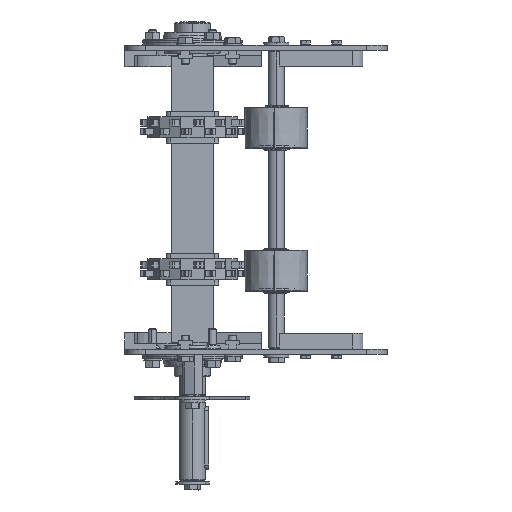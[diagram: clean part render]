
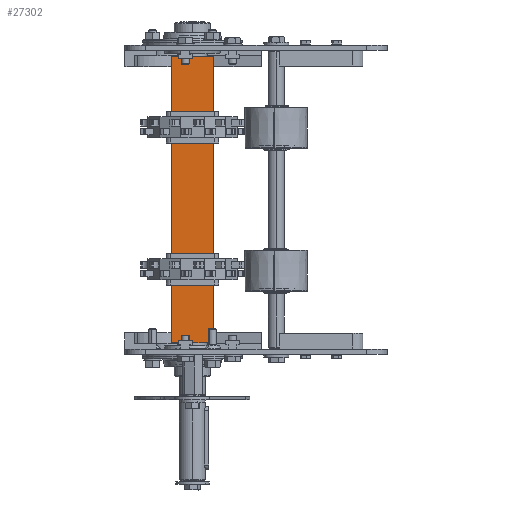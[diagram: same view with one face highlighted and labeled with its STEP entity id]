
A CAD part, left-side view. The second image highlights one B-rep face of the part: STEP entity #27302.
In plain terms, the highlighted planar face has unit normal (-1, 0, 0) as drawn and (1, 0, 0) by its records, which use the part's own axes.
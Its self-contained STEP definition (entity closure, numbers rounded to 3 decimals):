
#99 = CARTESIAN_POINT ( 'NONE',  ( 20., 20., -136.5 ) ) ;
#2536 = EDGE_CURVE ( 'NONE', #16077, #5804, #23051, .T. ) ;
#2972 = DIRECTION ( 'NONE',  ( 0., 1., 0. ) ) ;
#5804 = VERTEX_POINT ( 'NONE', #35596 ) ;
#6643 = PLANE ( 'NONE',  #30958 ) ;
#6761 = DIRECTION ( 'NONE',  ( -1., 0., 0. ) ) ;
#6986 = VECTOR ( 'NONE', #2972, 1000. ) ;
#8596 = DIRECTION ( 'NONE',  ( 0., 0., -1. ) ) ;
#10255 = ORIENTED_EDGE ( 'NONE', *, *, #2536, .F. ) ;
#12689 = ORIENTED_EDGE ( 'NONE', *, *, #14145, .F. ) ;
#13532 = DIRECTION ( 'NONE',  ( 0., 1., 0. ) ) ;
#14145 = EDGE_CURVE ( 'NONE', #30918, #16077, #19529, .T. ) ;
#14515 = LINE ( 'NONE', #28315, #21961 ) ;
#14631 = ORIENTED_EDGE ( 'NONE', *, *, #18827, .T. ) ;
#14746 = VECTOR ( 'NONE', #16963, 1000. ) ;
#16077 = VERTEX_POINT ( 'NONE', #27380 ) ;
#16963 = DIRECTION ( 'NONE',  ( 0., 0., -1. ) ) ;
#17254 = EDGE_CURVE ( 'NONE', #30918, #20331, #14515, .T. ) ;
#17674 = FACE_OUTER_BOUND ( 'NONE', #30742, .T. ) ;
#18827 = EDGE_CURVE ( 'NONE', #20331, #5804, #29492, .T. ) ;
#19529 = LINE ( 'NONE', #33264, #35473 ) ;
#20331 = VERTEX_POINT ( 'NONE', #30115 ) ;
#20834 = ORIENTED_EDGE ( 'NONE', *, *, #17254, .T. ) ;
#21961 = VECTOR ( 'NONE', #8596, 1000. ) ;
#23051 = LINE ( 'NONE', #33891, #14746 ) ;
#23628 = CARTESIAN_POINT ( 'NONE',  ( 20., 20., 136.5 ) ) ;
#26509 = DIRECTION ( 'NONE',  ( 0., -1., 0. ) ) ;
#27302 = ADVANCED_FACE ( 'NONE', ( #17674 ), #6643, .F. ) ;
#27380 = CARTESIAN_POINT ( 'NONE',  ( 20., 20., 136.5 ) ) ;
#28315 = CARTESIAN_POINT ( 'NONE',  ( 20., -20., 136.5 ) ) ;
#29492 = LINE ( 'NONE', #99, #6986 ) ;
#30115 = CARTESIAN_POINT ( 'NONE',  ( 20., -20., -136.5 ) ) ;
#30742 = EDGE_LOOP ( 'NONE', ( #14631, #10255, #12689, #20834 ) ) ;
#30918 = VERTEX_POINT ( 'NONE', #34940 ) ;
#30958 = AXIS2_PLACEMENT_3D ( 'NONE', #23628, #6761, #26509 ) ;
#33264 = CARTESIAN_POINT ( 'NONE',  ( 20., 20., 136.5 ) ) ;
#33891 = CARTESIAN_POINT ( 'NONE',  ( 20., 20., 136.5 ) ) ;
#34940 = CARTESIAN_POINT ( 'NONE',  ( 20., -20., 136.5 ) ) ;
#35473 = VECTOR ( 'NONE', #13532, 1000. ) ;
#35596 = CARTESIAN_POINT ( 'NONE',  ( 20., 20., -136.5 ) ) ;
